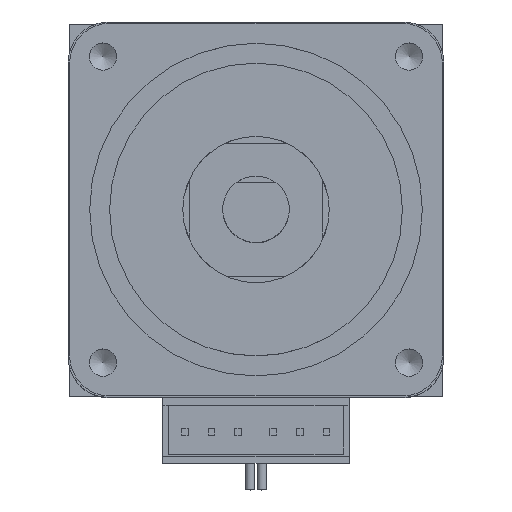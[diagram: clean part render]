
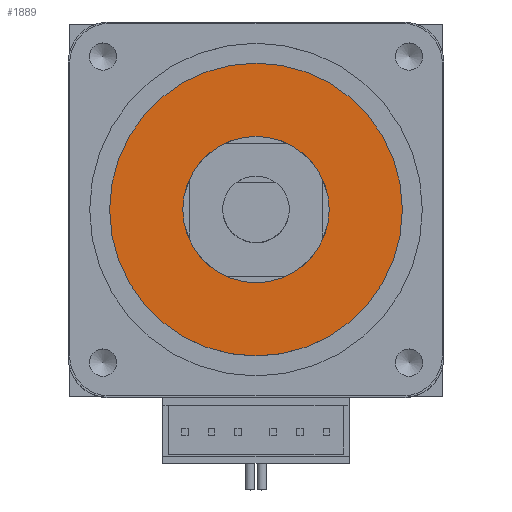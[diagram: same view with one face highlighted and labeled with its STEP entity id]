
A CAD part, top view. The second image highlights one B-rep face of the part: STEP entity #1889.
In plain terms, the highlighted planar face has unit normal (0, 0, 1).
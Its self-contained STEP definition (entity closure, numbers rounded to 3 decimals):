
#1889=ADVANCED_FACE('',(#2370,#2371),#2168,.F.);
#2168=PLANE('',#5871);
#2370=FACE_BOUND('',#2690,.T.);
#2371=FACE_BOUND('',#2691,.T.);
#2690=EDGE_LOOP('',(#3918));
#2691=EDGE_LOOP('',(#3919));
#3918=ORIENTED_EDGE('',*,*,#5288,.F.);
#3919=ORIENTED_EDGE('',*,*,#5290,.F.);
#4613=VERTEX_POINT('',#9074);
#4615=VERTEX_POINT('',#9079);
#5288=EDGE_CURVE('',#4613,#4613,#5522,.T.);
#5290=EDGE_CURVE('',#4615,#4615,#5524,.T.);
#5522=CIRCLE('',#5865,11.);
#5524=CIRCLE('',#5868,5.5);
#5865=AXIS2_PLACEMENT_3D('',#9073,#7053,#7054);
#5868=AXIS2_PLACEMENT_3D('',#9078,#7059,#7060);
#5871=AXIS2_PLACEMENT_3D('',#9083,#7065,#7066);
#7053=DIRECTION('',(0.,0.,-1.));
#7054=DIRECTION('',(1.,0.,0.));
#7059=DIRECTION('',(0.,0.,1.));
#7060=DIRECTION('',(1.,0.,0.));
#7065=DIRECTION('',(0.,0.,-1.));
#7066=DIRECTION('',(-1.,0.,0.));
#9073=CARTESIAN_POINT('',(0.,0.,1.5));
#9074=CARTESIAN_POINT('',(11.,0.,1.5));
#9078=CARTESIAN_POINT('',(0.,0.,1.5));
#9079=CARTESIAN_POINT('',(5.5,0.,1.5));
#9083=CARTESIAN_POINT('',(0.,0.,1.5));
